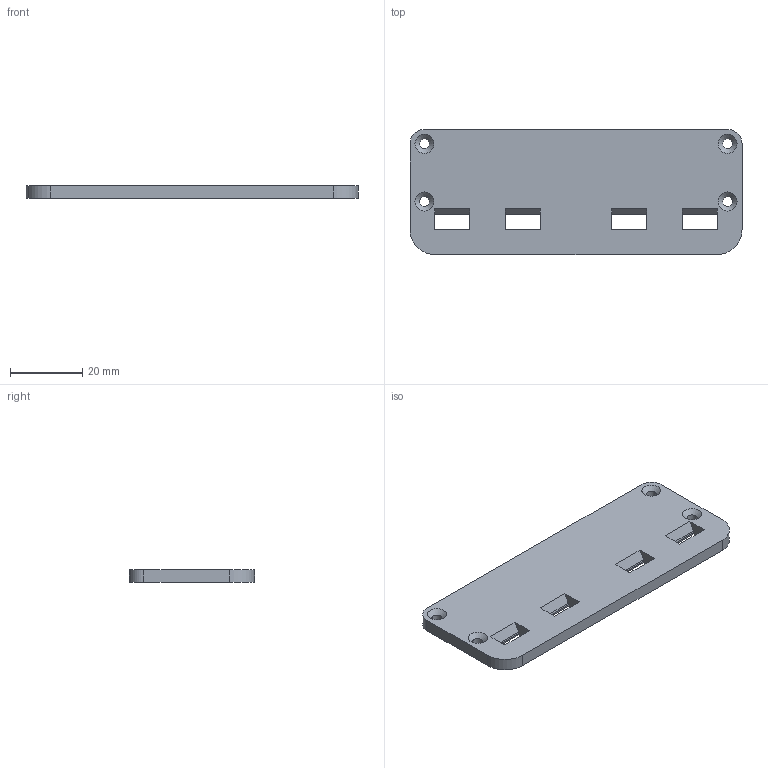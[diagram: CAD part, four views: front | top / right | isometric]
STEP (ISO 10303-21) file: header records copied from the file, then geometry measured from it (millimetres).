
FILE_DESCRIPTION(('FreeCAD Model'),'2;1');
FILE_NAME('Open CASCADE Shape Model','2023-08-22T15:04:34',('Author'),( ''),'Open CASCADE STEP processor 7.6','FreeCAD','Unknown');
FILE_SCHEMA(('AUTOMOTIVE_DESIGN { 1 0 10303 214 1 1 1 1 }'));
Length unit declared in the file: millimetre
Products named in the file (1): Fillet001
Bounding box: 92 x 34.7 x 3.5 mm (x, y, z)
Volume: 10258.1 mm3; surface area: 7251.2 mm2
Topology: 1 solids, 1 shells, 50 faces, 156 edges, 108 vertices
Faces by surface type: plane 30, cylinder 16, cone 4
Full cylindrical faces by diameter (mm): 2.8 x4
Entity records: 3870 total; most frequent: CARTESIAN_POINT 699, DIRECTION 594, LINE 400, VECTOR 400, ORIENTED_EDGE 312, PCURVE 312, DEFINITIONAL_REPRESENTATION 312, EDGE_CURVE 156
